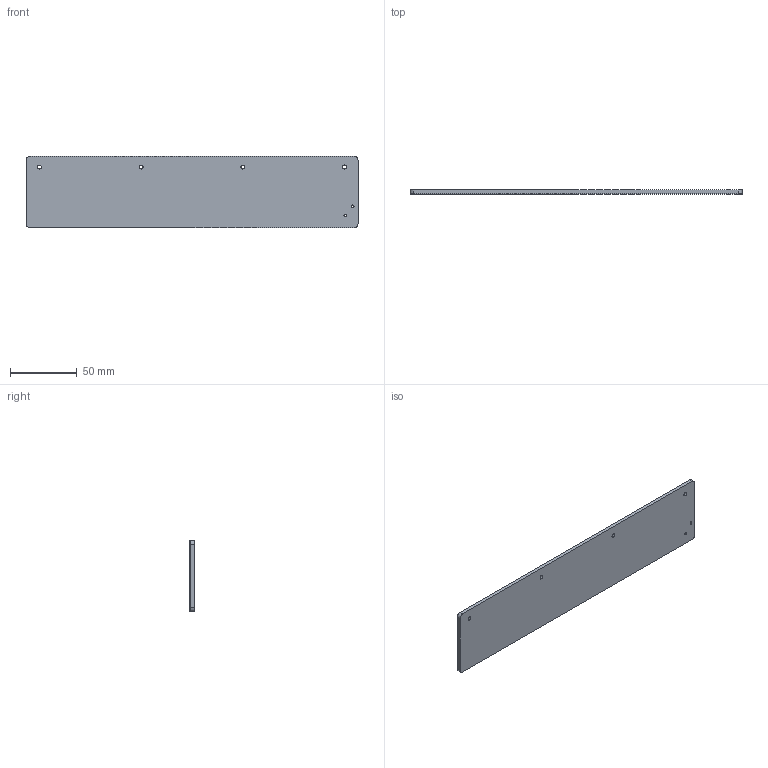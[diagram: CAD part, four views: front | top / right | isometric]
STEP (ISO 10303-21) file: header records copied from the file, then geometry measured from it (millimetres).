
FILE_DESCRIPTION (( 'STEP AP214' ), '1' );
FILE_NAME ('X cable drag chain support ForPrinting.STEP', '2022-01-29T17:59:17', ( '' ), ( '' ), 'SwSTEP 2.0', 'SolidWorks 2020', '' );
FILE_SCHEMA (( 'AUTOMOTIVE_DESIGN' ));
Length unit declared in the file: millimetre
Products named in the file (1): X cable drag chain support ForPrinting
Bounding box: 249 x 3 x 53.5 mm (x, y, z)
Volume: 39723.7 mm3; surface area: 28778.1 mm2
Topology: 1 solids, 1 shells, 487 faces, 1350 edges, 900 vertices
Faces by surface type: plane 255, bspline 214, cylinder 18
Entity records: 24122 total; most frequent: CARTESIAN_POINT 13040, ORIENTED_EDGE 2700, DIRECTION 1506, EDGE_CURVE 1350, VERTEX_POINT 900, LINE 886, VECTOR 886, EDGE_LOOP 534
